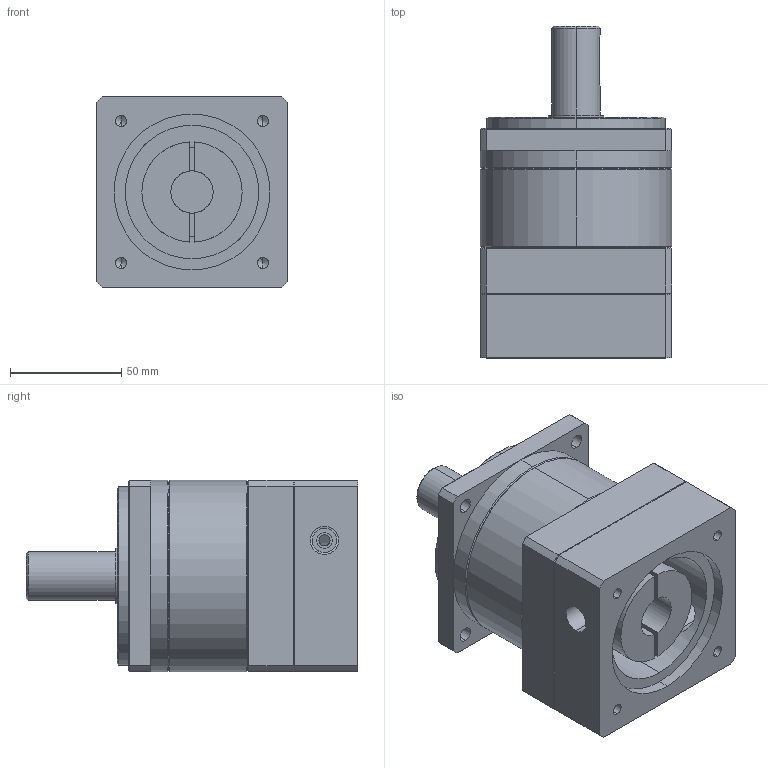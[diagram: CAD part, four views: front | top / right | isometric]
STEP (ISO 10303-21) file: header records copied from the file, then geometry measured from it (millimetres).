
FILE_DESCRIPTION (( 'STEP AP203' ), '1' );
FILE_NAME ('MF90X-L1£r70PCD£r90M6.STEP', '2014-04-16T00:38:15', ( 'KELLY' ), ( '' ), 'SwSTEP 2.0', 'SolidWorks 2012', '' );
FILE_SCHEMA (( 'CONFIG_CONTROL_DESIGN' ));
Length unit declared in the file: millimetre
Products named in the file (1): MF90X-L1｣r70PCD｣r90M6
Bounding box: 86 x 149 x 86 mm (x, y, z)
Volume: 638327.7 mm3; surface area: 98380.2 mm2
Topology: 4 solids, 4 shells, 156 faces, 370 edges, 225 vertices
Faces by surface type: cylinder 68, plane 56, cone 32
Entity records: 5039 total; most frequent: CARTESIAN_POINT 1324, DIRECTION 790, ORIENTED_EDGE 720, EDGE_CURVE 360, AXIS2_PLACEMENT_3D 311, VERTEX_POINT 225, EDGE_LOOP 191, LINE 168
